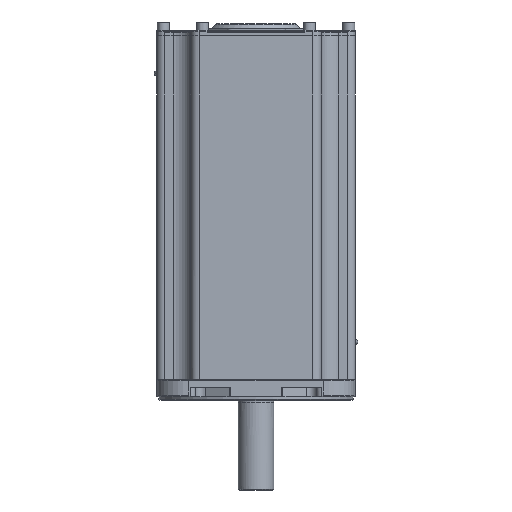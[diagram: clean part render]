
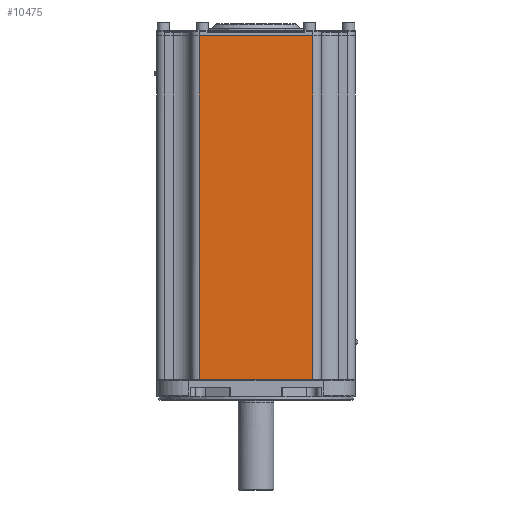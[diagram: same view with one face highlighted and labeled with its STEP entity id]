
A CAD part, front view. The second image highlights one B-rep face of the part: STEP entity #10475.
In plain terms, the highlighted planar face has unit normal (0, -1, 0).
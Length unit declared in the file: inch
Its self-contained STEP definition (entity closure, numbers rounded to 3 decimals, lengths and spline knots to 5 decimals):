
#9955=CARTESIAN_POINT('',(-2.65,-4.625,16.4));
#9956=VERTEX_POINT('',#9955);
#9963=CARTESIAN_POINT('',(2.65,-4.625,16.4));
#9964=VERTEX_POINT('',#9963);
#9965=CARTESIAN_POINT('',(2.65,-4.625,16.4));
#9966=DIRECTION('',(-1.0,0.0,0.0));
#9967=VECTOR('',#9966,5.3);
#9968=LINE('',#9965,#9967);
#9969=EDGE_CURVE('',#9964,#9956,#9968,.T.);
#10424=CARTESIAN_POINT('',(2.65,-4.625,0.4));
#10425=VERTEX_POINT('',#10424);
#10426=CARTESIAN_POINT('',(2.65,-4.625,16.4));
#10427=DIRECTION('',(0.0,0.0,-1.0));
#10428=VECTOR('',#10427,16.);
#10429=LINE('',#10426,#10428);
#10430=EDGE_CURVE('',#9964,#10425,#10429,.T.);
#10452=CARTESIAN_POINT('',(3.025,-4.625,0.4));
#10453=DIRECTION('',(0.0,-1.0,0.0));
#10454=DIRECTION('',(0.0,0.0,-1.0));
#10455=AXIS2_PLACEMENT_3D('',#10452,#10453,#10454);
#10456=PLANE('',#10455);
#10457=ORIENTED_EDGE('',*,*,#9969,.T.);
#10458=CARTESIAN_POINT('',(-2.65,-4.625,0.4));
#10459=VERTEX_POINT('',#10458);
#10460=CARTESIAN_POINT('',(-2.65,-4.625,0.4));
#10461=DIRECTION('',(0.0,0.0,1.0));
#10462=VECTOR('',#10461,16.);
#10463=LINE('',#10460,#10462);
#10464=EDGE_CURVE('',#10459,#9956,#10463,.T.);
#10465=ORIENTED_EDGE('',*,*,#10464,.F.);
#10466=CARTESIAN_POINT('',(-2.65,-4.625,0.4));
#10467=DIRECTION('',(1.0,0.0,0.0));
#10468=VECTOR('',#10467,5.3);
#10469=LINE('',#10466,#10468);
#10470=EDGE_CURVE('',#10459,#10425,#10469,.T.);
#10471=ORIENTED_EDGE('',*,*,#10470,.T.);
#10472=ORIENTED_EDGE('',*,*,#10430,.F.);
#10473=EDGE_LOOP('',(#10457,#10465,#10471,#10472));
#10474=FACE_OUTER_BOUND('',#10473,.T.);
#10475=ADVANCED_FACE('',(#10474),#10456,.T.);
